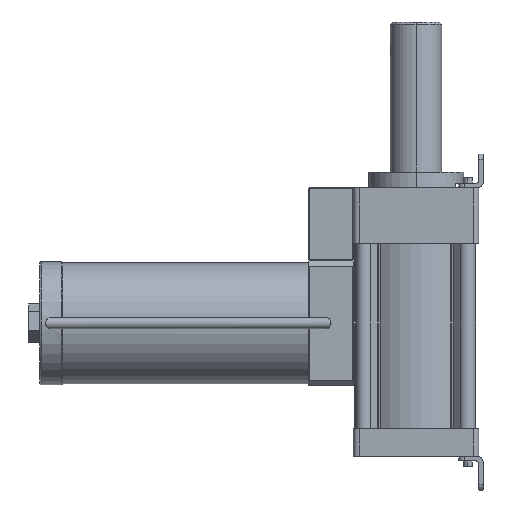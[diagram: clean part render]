
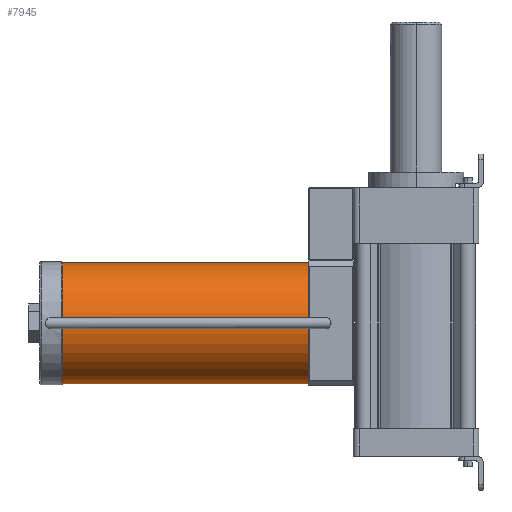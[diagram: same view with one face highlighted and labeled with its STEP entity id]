
A CAD part, left-side view. The second image highlights one B-rep face of the part: STEP entity #7945.
In plain terms, the highlighted cylindrical face has radius 54 mm (diameter 108 mm), a partial arc.
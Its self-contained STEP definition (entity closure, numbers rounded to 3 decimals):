
#85 = CARTESIAN_POINT ( 'NONE',  ( 0., 96., -96. ) ) ;
#659 = FACE_OUTER_BOUND ( 'NONE', #10653, .T. ) ;
#750 = AXIS2_PLACEMENT_3D ( 'NONE', #85, #6617, #1024 ) ;
#1022 = CARTESIAN_POINT ( 'NONE',  ( 0., 316., -150. ) ) ;
#1024 = DIRECTION ( 'NONE',  ( 0., 0., -1. ) ) ;
#1118 = VERTEX_POINT ( 'NONE', #1022 ) ;
#1127 = VECTOR ( 'NONE', #11357, 1000. ) ;
#1438 = CARTESIAN_POINT ( 'NONE',  ( 0., 316., -150. ) ) ;
#1749 = VERTEX_POINT ( 'NONE', #2964 ) ;
#1777 = CIRCLE ( 'NONE', #5918, 54. ) ;
#2694 = EDGE_CURVE ( 'NONE', #1118, #4127, #1777, .T. ) ;
#2964 = CARTESIAN_POINT ( 'NONE',  ( 0., 96., -150. ) ) ;
#3166 = AXIS2_PLACEMENT_3D ( 'NONE', #11704, #5571, #11666 ) ;
#3449 = VECTOR ( 'NONE', #4503, 1000. ) ;
#3507 = CARTESIAN_POINT ( 'NONE',  ( 0., 316., -42. ) ) ;
#3967 = CARTESIAN_POINT ( 'NONE',  ( 0., 96., -42. ) ) ;
#4127 = VERTEX_POINT ( 'NONE', #10541 ) ;
#4503 = DIRECTION ( 'NONE',  ( 0., -1., 0. ) ) ;
#5379 = CYLINDRICAL_SURFACE ( 'NONE', #3166, 54. ) ;
#5395 = CIRCLE ( 'NONE', #750, 54. ) ;
#5571 = DIRECTION ( 'NONE',  ( 0., -1., 0. ) ) ;
#5602 = DIRECTION ( 'NONE',  ( 0., 0., 1. ) ) ;
#5614 = DIRECTION ( 'NONE',  ( 0., 1., 0. ) ) ;
#5625 = CARTESIAN_POINT ( 'NONE',  ( 0., 316., -96. ) ) ;
#5918 = AXIS2_PLACEMENT_3D ( 'NONE', #5625, #5614, #5602 ) ;
#6485 = ORIENTED_EDGE ( 'NONE', *, *, #9285, .T. ) ;
#6566 = ORIENTED_EDGE ( 'NONE', *, *, #9594, .T. ) ;
#6617 = DIRECTION ( 'NONE',  ( 0., 1., 0. ) ) ;
#7457 = EDGE_CURVE ( 'NONE', #4127, #11100, #10609, .T. ) ;
#7945 = ADVANCED_FACE ( 'NONE', ( #659 ), #5379, .T. ) ;
#8400 = ORIENTED_EDGE ( 'NONE', *, *, #7457, .F. ) ;
#8457 = LINE ( 'NONE', #1438, #1127 ) ;
#9285 = EDGE_CURVE ( 'NONE', #1118, #1749, #8457, .T. ) ;
#9594 = EDGE_CURVE ( 'NONE', #1749, #11100, #5395, .T. ) ;
#10541 = CARTESIAN_POINT ( 'NONE',  ( 0., 316., -42. ) ) ;
#10609 = LINE ( 'NONE', #3507, #3449 ) ;
#10653 = EDGE_LOOP ( 'NONE', ( #8400, #11109, #6485, #6566 ) ) ;
#11100 = VERTEX_POINT ( 'NONE', #3967 ) ;
#11109 = ORIENTED_EDGE ( 'NONE', *, *, #2694, .F. ) ;
#11357 = DIRECTION ( 'NONE',  ( 0., -1., 0. ) ) ;
#11666 = DIRECTION ( 'NONE',  ( 0., 0., -1. ) ) ;
#11704 = CARTESIAN_POINT ( 'NONE',  ( 0., 316., -96. ) ) ;
